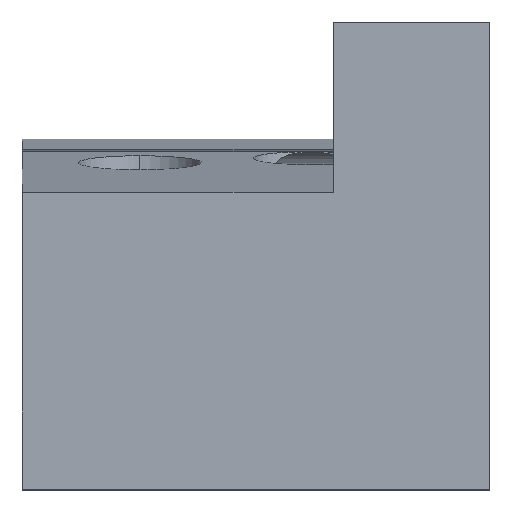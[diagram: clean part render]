
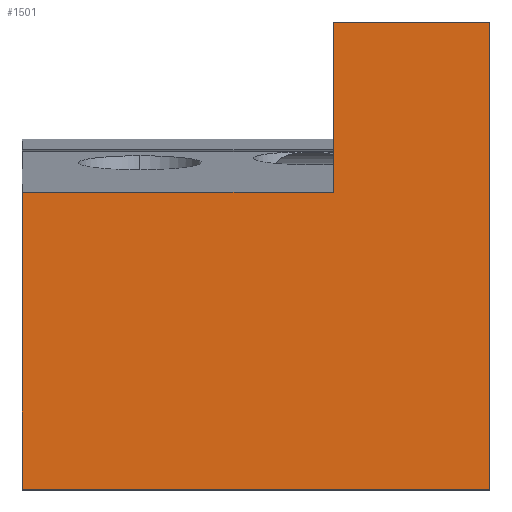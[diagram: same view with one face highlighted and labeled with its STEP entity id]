
A CAD part, top view. The second image highlights one B-rep face of the part: STEP entity #1501.
In plain terms, the highlighted planar face has unit normal (0, 0, 1).
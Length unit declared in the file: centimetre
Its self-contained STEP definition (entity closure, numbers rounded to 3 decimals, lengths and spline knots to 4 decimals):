
#33 = DIRECTION ( 'NONE',  ( 1., 0., 0. ) ) ;
#64 = CARTESIAN_POINT ( 'NONE',  ( 0., 0., 1000. ) ) ;
#135 = DIRECTION ( 'NONE',  ( 0., -1., 0. ) ) ;
#192 = VECTOR ( 'NONE', #135, 100. ) ;
#243 = VERTEX_POINT ( 'NONE', #2586 ) ;
#265 = LINE ( 'NONE', #1154, #1115 ) ;
#408 = ORIENTED_EDGE ( 'NONE', *, *, #825, .T. ) ;
#647 = CARTESIAN_POINT ( 'NONE',  ( 0., 635.0964, 1000. ) ) ;
#660 = ORIENTED_EDGE ( 'NONE', *, *, #2401, .T. ) ;
#661 = EDGE_CURVE ( 'NONE', #243, #1055, #736, .T. ) ;
#736 = LINE ( 'NONE', #2461, #2430 ) ;
#779 = VECTOR ( 'NONE', #2794, 100. ) ;
#804 = CARTESIAN_POINT ( 'NONE',  ( 0., 0., 1000. ) ) ;
#825 = EDGE_CURVE ( 'NONE', #1055, #865, #1047, .T. ) ;
#834 = LINE ( 'NONE', #2752, #1054 ) ;
#851 = VERTEX_POINT ( 'NONE', #1237 ) ;
#865 = VERTEX_POINT ( 'NONE', #804 ) ;
#896 = EDGE_CURVE ( 'NONE', #243, #2783, #834, .T. ) ;
#921 = EDGE_CURVE ( 'NONE', #851, #2783, #1903, .T. ) ;
#923 = DIRECTION ( 'NONE',  ( -1., 0., 0. ) ) ;
#989 = CARTESIAN_POINT ( 'NONE',  ( 0., 1000., 1000. ) ) ;
#1047 = LINE ( 'NONE', #1863, #192 ) ;
#1054 = VECTOR ( 'NONE', #1641, 100. ) ;
#1055 = VERTEX_POINT ( 'NONE', #647 ) ;
#1115 = VECTOR ( 'NONE', #1368, 100. ) ;
#1126 = FACE_OUTER_BOUND ( 'NONE', #2714, .T. ) ;
#1140 = DIRECTION ( 'NONE',  ( 1., 0., 0. ) ) ;
#1154 = CARTESIAN_POINT ( 'NONE',  ( 1000., 1000., 1000. ) ) ;
#1237 = CARTESIAN_POINT ( 'NONE',  ( 1000., 1000., 1000. ) ) ;
#1338 = VECTOR ( 'NONE', #1140, 100. ) ;
#1368 = DIRECTION ( 'NONE',  ( 0., 1., 0. ) ) ;
#1501 = ADVANCED_FACE ( 'NONE', ( #1126 ), #2658, .T. ) ;
#1548 = CARTESIAN_POINT ( 'NONE',  ( 665.4136, 1000., 1000. ) ) ;
#1595 = LINE ( 'NONE', #2483, #1338 ) ;
#1641 = DIRECTION ( 'NONE',  ( 0., 1., 0. ) ) ;
#1722 = ORIENTED_EDGE ( 'NONE', *, *, #2432, .T. ) ;
#1837 = ORIENTED_EDGE ( 'NONE', *, *, #896, .F. ) ;
#1863 = CARTESIAN_POINT ( 'NONE',  ( 0., 1000., 1000. ) ) ;
#1903 = LINE ( 'NONE', #989, #779 ) ;
#1970 = ORIENTED_EDGE ( 'NONE', *, *, #661, .T. ) ;
#1987 = DIRECTION ( 'NONE',  ( 0., 0., 1. ) ) ;
#1997 = CARTESIAN_POINT ( 'NONE',  ( 1000., 0., 1000. ) ) ;
#2242 = AXIS2_PLACEMENT_3D ( 'NONE', #64, #1987, #33 ) ;
#2319 = ORIENTED_EDGE ( 'NONE', *, *, #921, .T. ) ;
#2401 = EDGE_CURVE ( 'NONE', #2413, #851, #265, .T. ) ;
#2413 = VERTEX_POINT ( 'NONE', #1997 ) ;
#2430 = VECTOR ( 'NONE', #923, 100. ) ;
#2432 = EDGE_CURVE ( 'NONE', #865, #2413, #1595, .T. ) ;
#2461 = CARTESIAN_POINT ( 'NONE',  ( 665.4136, 635.0964, 1000. ) ) ;
#2483 = CARTESIAN_POINT ( 'NONE',  ( 0., 0., 1000. ) ) ;
#2586 = CARTESIAN_POINT ( 'NONE',  ( 665.4136, 635.0964, 1000. ) ) ;
#2658 = PLANE ( 'NONE',  #2242 ) ;
#2714 = EDGE_LOOP ( 'NONE', ( #1970, #408, #1722, #660, #2319, #1837 ) ) ;
#2752 = CARTESIAN_POINT ( 'NONE',  ( 665.4136, 1000., 1000. ) ) ;
#2783 = VERTEX_POINT ( 'NONE', #1548 ) ;
#2794 = DIRECTION ( 'NONE',  ( -1., 0., 0. ) ) ;
